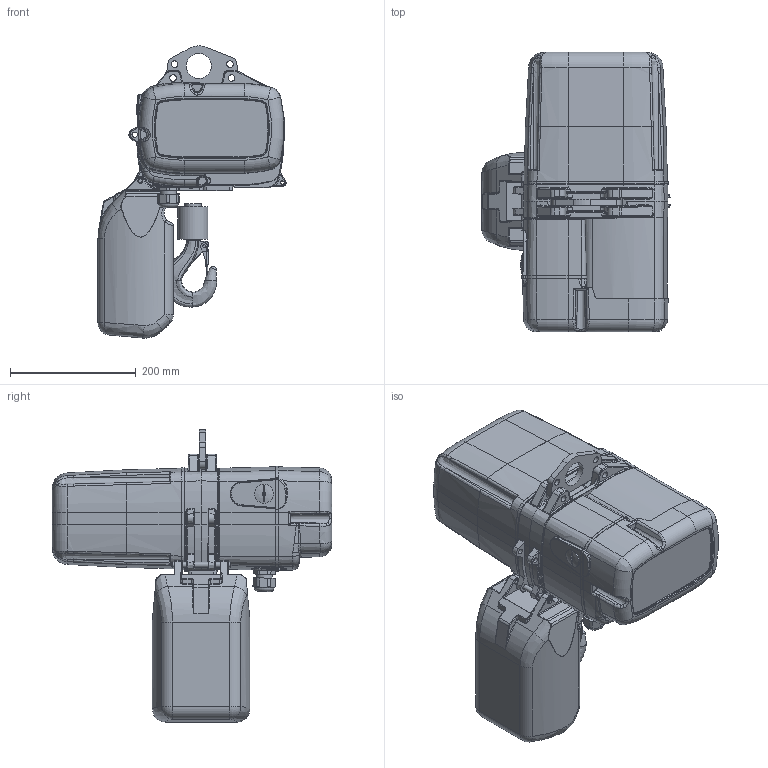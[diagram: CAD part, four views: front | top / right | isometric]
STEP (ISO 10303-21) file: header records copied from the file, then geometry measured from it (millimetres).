
FILE_DESCRIPTION(/* description */ (''),/* implementation_level */ '2;1');
FILE_NAME(/* name */ 'C:\Users\gisjbi\Desktop\L Modelle\GPR 500-1 Oese.stp',/* time_stamp */ '2017-02-15T15:14:32+01:00',/* author */ ('gisjbi'),/* organization */ (''),/* preprocessor_version */ 'ST-DEVELOPER v15.6',/* originating_system */ 'Autodesk Inventor 2015',/* authorisation */ '');
FILE_SCHEMA (('CONFIG_CONTROL_DESIGN'));
Length unit declared in the file: millimetre
Products named in the file (4): GPR 500; Aufhängeoese; Klemmstück; Baugruppe10
Assembly tree (3 placements, depth 2):
  Baugruppe10
    GPR 500
    Aufhängeoese
    Klemmstück
Bounding box: 298.82 x 444 x 464.06 mm (x, y, z)
Volume: 18075404.4 mm3; surface area: 637410.3 mm2
Topology: 8 solids, 8 shells, 1546 faces, 3931 edges, 2368 vertices
Faces by surface type: bspline 528, cylinder 380, plane 307, torus 221, cone 96, sphere 14
Full cylindrical faces by diameter (mm): 4.917 x1, 5 x2, 5.5 x2, 5.8 x1, 8 x3, 8.5 x4, 10.5 x8, 17 x2, 25 x2, 26 x1, 30 x2, 40 x1, 48 x1, 50 x1
Entity records: 71754 total; most frequent: CARTESIAN_POINT 35725, ORIENTED_EDGE 7626, DIRECTION 6796, EDGE_CURVE 3813, AXIS2_PLACEMENT_3D 2865, VERTEX_POINT 2350, EDGE_LOOP 1661, FACE_OUTER_BOUND 1546
